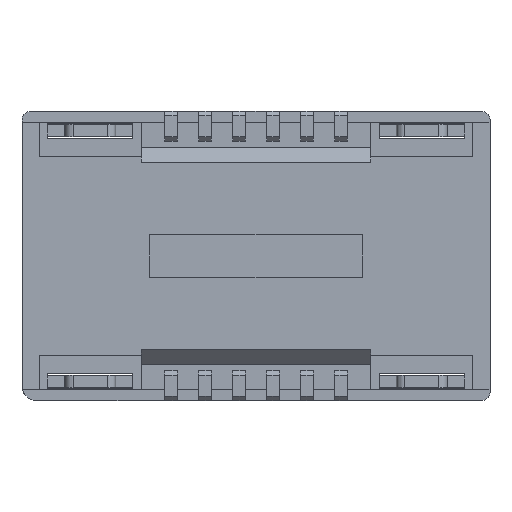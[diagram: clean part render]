
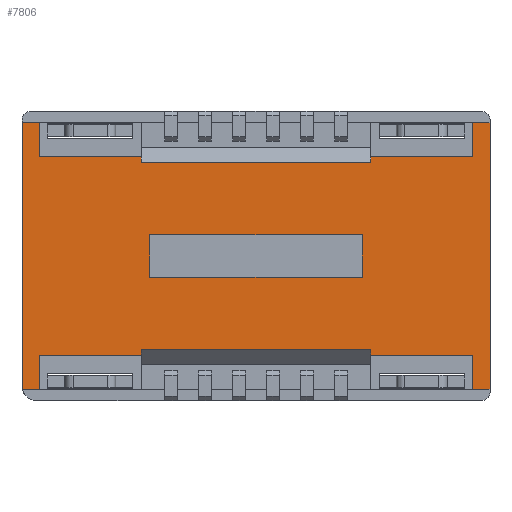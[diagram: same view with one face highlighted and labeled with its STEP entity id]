
A CAD part, front view. The second image highlights one B-rep face of the part: STEP entity #7806.
In plain terms, the highlighted planar face has unit normal (0, -1, 0).
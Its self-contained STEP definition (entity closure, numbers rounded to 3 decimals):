
#435=DIRECTION('',(0.,0.,-1.));
#436=VECTOR('',#435,3.13);
#437=CARTESIAN_POINT('',(2.75,-0.57,1.565));
#438=LINE('',#437,#436);
#1192=DIRECTION('',(-1.,0.,0.));
#1193=VECTOR('',#1192,2.5);
#1194=CARTESIAN_POINT('',(1.25,-0.57,0.25));
#1195=LINE('',#1194,#1193);
#1196=DIRECTION('',(0.,0.,-1.));
#1197=VECTOR('',#1196,0.5);
#1198=CARTESIAN_POINT('',(-1.25,-0.57,0.25));
#1199=LINE('',#1198,#1197);
#1200=DIRECTION('',(1.,0.,0.));
#1201=VECTOR('',#1200,2.5);
#1202=CARTESIAN_POINT('',(-1.25,-0.57,-0.25));
#1203=LINE('',#1202,#1201);
#1204=DIRECTION('',(0.,0.,1.));
#1205=VECTOR('',#1204,0.5);
#1206=CARTESIAN_POINT('',(1.25,-0.57,-0.25));
#1207=LINE('',#1206,#1205);
#1208=DIRECTION('',(1.,0.,0.));
#1209=VECTOR('',#1208,1.2);
#1210=CARTESIAN_POINT('',(1.35,-0.57,1.165));
#1211=LINE('',#1210,#1209);
#1212=DIRECTION('',(0.,0.,-1.));
#1213=VECTOR('',#1212,0.4);
#1214=CARTESIAN_POINT('',(2.55,-0.57,1.565));
#1215=LINE('',#1214,#1213);
#1216=DIRECTION('',(1.,0.,0.));
#1217=VECTOR('',#1216,0.2);
#1218=CARTESIAN_POINT('',(2.55,-0.57,1.565));
#1219=LINE('',#1218,#1217);
#1220=DIRECTION('',(1.,0.,0.));
#1221=VECTOR('',#1220,0.2);
#1222=CARTESIAN_POINT('',(2.55,-0.57,-1.565));
#1223=LINE('',#1222,#1221);
#1224=DIRECTION('',(0.,0.,1.));
#1225=VECTOR('',#1224,0.4);
#1226=CARTESIAN_POINT('',(2.55,-0.57,-1.565));
#1227=LINE('',#1226,#1225);
#1228=DIRECTION('',(-1.,0.,0.));
#1229=VECTOR('',#1228,1.2);
#1230=CARTESIAN_POINT('',(2.55,-0.57,-1.165));
#1231=LINE('',#1230,#1229);
#1232=DIRECTION('',(0.,0.,1.));
#1233=VECTOR('',#1232,0.065);
#1234=CARTESIAN_POINT('',(1.35,-0.57,-1.165));
#1235=LINE('',#1234,#1233);
#1236=DIRECTION('',(1.,0.,0.));
#1237=VECTOR('',#1236,2.7);
#1238=CARTESIAN_POINT('',(-1.35,-0.57,-1.1));
#1239=LINE('',#1238,#1237);
#1240=DIRECTION('',(0.,0.,1.));
#1241=VECTOR('',#1240,0.065);
#1242=CARTESIAN_POINT('',(-1.35,-0.57,-1.165));
#1243=LINE('',#1242,#1241);
#1244=DIRECTION('',(-1.,0.,0.));
#1245=VECTOR('',#1244,1.2);
#1246=CARTESIAN_POINT('',(-1.35,-0.57,-1.165));
#1247=LINE('',#1246,#1245);
#1248=DIRECTION('',(0.,0.,1.));
#1249=VECTOR('',#1248,0.4);
#1250=CARTESIAN_POINT('',(-2.55,-0.57,-1.565));
#1251=LINE('',#1250,#1249);
#1252=DIRECTION('',(1.,0.,0.));
#1253=VECTOR('',#1252,0.2);
#1254=CARTESIAN_POINT('',(-2.75,-0.57,-1.565));
#1255=LINE('',#1254,#1253);
#1256=DIRECTION('',(0.,0.,-1.));
#1257=VECTOR('',#1256,3.13);
#1258=CARTESIAN_POINT('',(-2.75,-0.57,1.565));
#1259=LINE('',#1258,#1257);
#1260=DIRECTION('',(1.,0.,0.));
#1261=VECTOR('',#1260,0.2);
#1262=CARTESIAN_POINT('',(-2.75,-0.57,1.565));
#1263=LINE('',#1262,#1261);
#1264=DIRECTION('',(0.,0.,-1.));
#1265=VECTOR('',#1264,0.4);
#1266=CARTESIAN_POINT('',(-2.55,-0.57,1.565));
#1267=LINE('',#1266,#1265);
#1268=DIRECTION('',(1.,0.,0.));
#1269=VECTOR('',#1268,1.2);
#1270=CARTESIAN_POINT('',(-2.55,-0.57,1.165));
#1271=LINE('',#1270,#1269);
#1272=DIRECTION('',(0.,0.,1.));
#1273=VECTOR('',#1272,0.065);
#1274=CARTESIAN_POINT('',(-1.35,-0.57,1.1));
#1275=LINE('',#1274,#1273);
#1276=DIRECTION('',(1.,0.,0.));
#1277=VECTOR('',#1276,2.7);
#1278=CARTESIAN_POINT('',(-1.35,-0.57,1.1));
#1279=LINE('',#1278,#1277);
#1280=DIRECTION('',(0.,0.,1.));
#1281=VECTOR('',#1280,0.065);
#1282=CARTESIAN_POINT('',(1.35,-0.57,1.1));
#1283=LINE('',#1282,#1281);
#4854=CARTESIAN_POINT('',(-2.75,-0.57,1.565));
#4856=VERTEX_POINT('',#4854);
#4858=CARTESIAN_POINT('',(2.75,-0.57,1.565));
#4860=VERTEX_POINT('',#4858);
#4862=CARTESIAN_POINT('',(2.75,-0.57,-1.565));
#4864=VERTEX_POINT('',#4862);
#4866=CARTESIAN_POINT('',(-2.75,-0.57,-1.565));
#4867=VERTEX_POINT('',#4866);
#4924=CARTESIAN_POINT('',(1.35,-0.57,1.165));
#4925=CARTESIAN_POINT('',(2.55,-0.57,1.165));
#4926=VERTEX_POINT('',#4924);
#4927=VERTEX_POINT('',#4925);
#4928=CARTESIAN_POINT('',(2.55,-0.57,1.565));
#4929=VERTEX_POINT('',#4928);
#4930=CARTESIAN_POINT('',(2.55,-0.57,-1.565));
#4931=CARTESIAN_POINT('',(2.55,-0.57,-1.165));
#4932=VERTEX_POINT('',#4930);
#4933=VERTEX_POINT('',#4931);
#4934=CARTESIAN_POINT('',(1.35,-0.57,-1.165));
#4935=VERTEX_POINT('',#4934);
#4936=CARTESIAN_POINT('',(-2.55,-0.57,1.565));
#4937=CARTESIAN_POINT('',(-2.55,-0.57,1.165));
#4938=VERTEX_POINT('',#4936);
#4939=VERTEX_POINT('',#4937);
#4940=CARTESIAN_POINT('',(-1.35,-0.57,1.165));
#4941=VERTEX_POINT('',#4940);
#4942=CARTESIAN_POINT('',(-1.35,-0.57,-1.165));
#4943=CARTESIAN_POINT('',(-2.55,-0.57,-1.165));
#4944=VERTEX_POINT('',#4942);
#4945=VERTEX_POINT('',#4943);
#4946=CARTESIAN_POINT('',(-2.55,-0.57,-1.565));
#4947=VERTEX_POINT('',#4946);
#5012=CARTESIAN_POINT('',(1.25,-0.57,0.25));
#5013=CARTESIAN_POINT('',(-1.25,-0.57,0.25));
#5014=VERTEX_POINT('',#5012);
#5015=VERTEX_POINT('',#5013);
#5016=CARTESIAN_POINT('',(-1.25,-0.57,-0.25));
#5017=VERTEX_POINT('',#5016);
#5018=CARTESIAN_POINT('',(1.25,-0.57,-0.25));
#5019=VERTEX_POINT('',#5018);
#5092=CARTESIAN_POINT('',(-1.35,-0.57,1.1));
#5093=CARTESIAN_POINT('',(1.35,-0.57,1.1));
#5094=VERTEX_POINT('',#5092);
#5095=VERTEX_POINT('',#5093);
#5096=CARTESIAN_POINT('',(-1.35,-0.57,-1.1));
#5097=CARTESIAN_POINT('',(1.35,-0.57,-1.1));
#5098=VERTEX_POINT('',#5096);
#5099=VERTEX_POINT('',#5097);
#7753=CARTESIAN_POINT('',(-2.75,-0.57,1.7));
#7754=DIRECTION('',(0.,-1.,0.));
#7755=DIRECTION('',(1.,0.,0.));
#7756=AXIS2_PLACEMENT_3D('',#7753,#7754,#7755);
#7757=PLANE('',#7756);
#7759=ORIENTED_EDGE('',*,*,#7758,.T.);
#7761=ORIENTED_EDGE('',*,*,#7760,.F.);
#7762=ORIENTED_EDGE('',*,*,#7644,.T.);
#7763=ORIENTED_EDGE('',*,*,#6821,.T.);
#7765=ORIENTED_EDGE('',*,*,#7764,.F.);
#7767=ORIENTED_EDGE('',*,*,#7766,.T.);
#7769=ORIENTED_EDGE('',*,*,#7768,.T.);
#7771=ORIENTED_EDGE('',*,*,#7770,.T.);
#7773=ORIENTED_EDGE('',*,*,#7772,.F.);
#7775=ORIENTED_EDGE('',*,*,#7774,.F.);
#7777=ORIENTED_EDGE('',*,*,#7776,.T.);
#7779=ORIENTED_EDGE('',*,*,#7778,.F.);
#7781=ORIENTED_EDGE('',*,*,#7780,.F.);
#7782=ORIENTED_EDGE('',*,*,#6690,.F.);
#7783=ORIENTED_EDGE('',*,*,#7731,.T.);
#7785=ORIENTED_EDGE('',*,*,#7784,.T.);
#7787=ORIENTED_EDGE('',*,*,#7786,.T.);
#7789=ORIENTED_EDGE('',*,*,#7788,.F.);
#7791=ORIENTED_EDGE('',*,*,#7790,.T.);
#7793=ORIENTED_EDGE('',*,*,#7792,.T.);
#7794=EDGE_LOOP('',(#7759,#7761,#7762,#7763,#7765,#7767,#7769,#7771,#7773,#7775,
#7777,#7779,#7781,#7782,#7783,#7785,#7787,#7789,#7791,#7793));
#7795=FACE_OUTER_BOUND('',#7794,.F.);
#7797=ORIENTED_EDGE('',*,*,#7796,.T.);
#7799=ORIENTED_EDGE('',*,*,#7798,.T.);
#7801=ORIENTED_EDGE('',*,*,#7800,.T.);
#7803=ORIENTED_EDGE('',*,*,#7802,.T.);
#7804=EDGE_LOOP('',(#7797,#7799,#7801,#7803));
#7805=FACE_BOUND('',#7804,.F.);
#7806=ADVANCED_FACE('',(#7795,#7805),#7757,.T.);
#6690=EDGE_CURVE('',#4856,#4867,#1259,.T.);
#6821=EDGE_CURVE('',#4860,#4864,#438,.T.);
#7644=EDGE_CURVE('',#4929,#4860,#1219,.T.);
#7731=EDGE_CURVE('',#4856,#4938,#1263,.T.);
#7758=EDGE_CURVE('',#4926,#4927,#1211,.T.);
#7760=EDGE_CURVE('',#4929,#4927,#1215,.T.);
#7764=EDGE_CURVE('',#4932,#4864,#1223,.T.);
#7766=EDGE_CURVE('',#4932,#4933,#1227,.T.);
#7768=EDGE_CURVE('',#4933,#4935,#1231,.T.);
#7770=EDGE_CURVE('',#4935,#5099,#1235,.T.);
#7772=EDGE_CURVE('',#5098,#5099,#1239,.T.);
#7774=EDGE_CURVE('',#4944,#5098,#1243,.T.);
#7776=EDGE_CURVE('',#4944,#4945,#1247,.T.);
#7778=EDGE_CURVE('',#4947,#4945,#1251,.T.);
#7780=EDGE_CURVE('',#4867,#4947,#1255,.T.);
#7784=EDGE_CURVE('',#4938,#4939,#1267,.T.);
#7786=EDGE_CURVE('',#4939,#4941,#1271,.T.);
#7788=EDGE_CURVE('',#5094,#4941,#1275,.T.);
#7790=EDGE_CURVE('',#5094,#5095,#1279,.T.);
#7792=EDGE_CURVE('',#5095,#4926,#1283,.T.);
#7796=EDGE_CURVE('',#5014,#5015,#1195,.T.);
#7798=EDGE_CURVE('',#5015,#5017,#1199,.T.);
#7800=EDGE_CURVE('',#5017,#5019,#1203,.T.);
#7802=EDGE_CURVE('',#5019,#5014,#1207,.T.);
